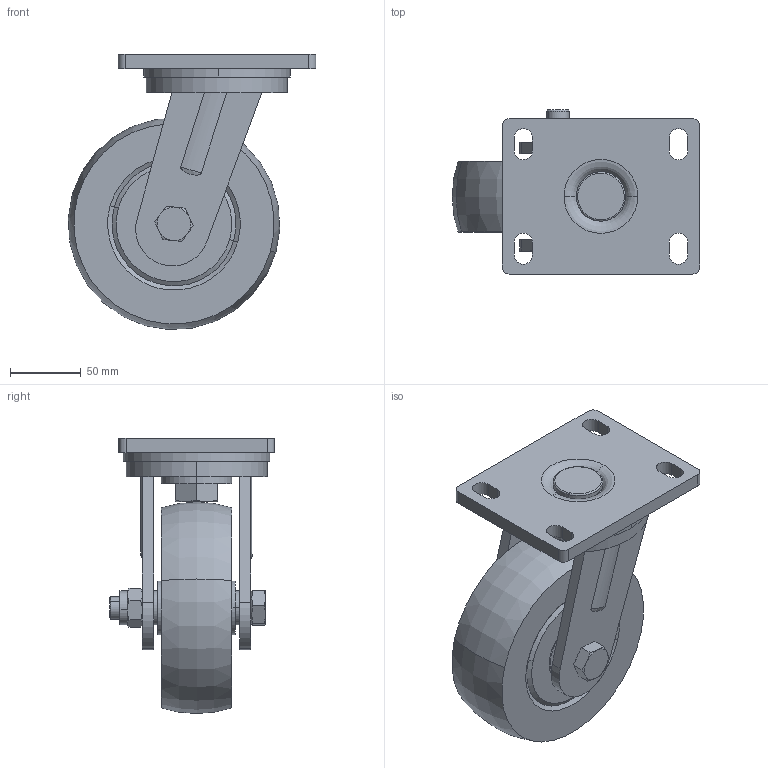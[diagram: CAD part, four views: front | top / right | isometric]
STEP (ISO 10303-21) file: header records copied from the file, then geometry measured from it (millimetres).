
FILE_DESCRIPTION (( 'STEP AP203' ), '1' );
FILE_NAME ('6寸-1-（万向）.STEP', '2023-08-02T08:48:16', ( 'Microsoft' ), ( 'Microsoft' ), 'SwSTEP 2.0', 'SolidWorks 2016', '' );
FILE_SCHEMA (( 'CONFIG_CONTROL_DESIGN' ));
Length unit declared in the file: millimetre
Products named in the file (15): 6寸-1-转盘挡圈（万向）; 6寸-1-下支架支撑（万向）_1; 6渡-1-穩蹟隊ㄗ勀砃ㄘ; 6寸-1-下支架转盘（万向）_1; 6寸-1-挡圈; 6渡-1-謫赽ㄗ懦伎ㄘ; 6渡-1-狟盓殤ㄗ勀砃ㄘ; M20蹟譫; 6渡-1-奻假蚾啣ㄗ勀砃ㄘ; 6渡-1-菜えㄗ勀砃ㄘ; 深沟球轴承-47-17-14; 6渡-1-ㄗ勀砃ㄘ; 6渡-1-紩攫ㄗ勀砃ㄘ; 非金属嵌件防松螺母-M16; hexagon head bolts-full thread gb_M16X100蹟邡
Assembly tree (16 placements, depth 3):
  6渡-1-ㄗ勀砃ㄘ
    6渡-1-狟盓殤ㄗ勀砃ㄘ
      6寸-1-下支架转盘（万向）_1
      6寸-1-下支架支撑（万向）_1
    6渡-1-紩攫ㄗ勀砃ㄘ
    6寸-1-转盘挡圈（万向）
    6寸-1-挡圈  x2
    6渡-1-謫赽ㄗ懦伎ㄘ
    6渡-1-菜えㄗ勀砃ㄘ
    深沟球轴承-47-17-14  x2
    hexagon head bolts-full thread gb_M16X100蹟邡
    非金属嵌件防松螺母-M16
    M20蹟譫
    6渡-1-奻假蚾啣ㄗ勀砃ㄘ
    6渡-1-穩蹟隊ㄗ勀砃ㄘ
Bounding box: 175.32 x 116.5 x 194.9 mm (x, y, z)
Volume: 1220850.4 mm3; surface area: 216739 mm2
Topology: 16 solids, 18 shells, 651 faces, 1943 edges, 1201 vertices
Faces by surface type: cylinder 240, plane 160, bspline 143, sphere 61, cone 37, torus 10
Entity records: 26048 total; most frequent: CARTESIAN_POINT 11905, ORIENTED_EDGE 2712, DIRECTION 2522, EDGE_CURVE 1356, AXIS2_PLACEMENT_3D 1123, VERTEX_POINT 911, EDGE_LOOP 673, CIRCLE 633
